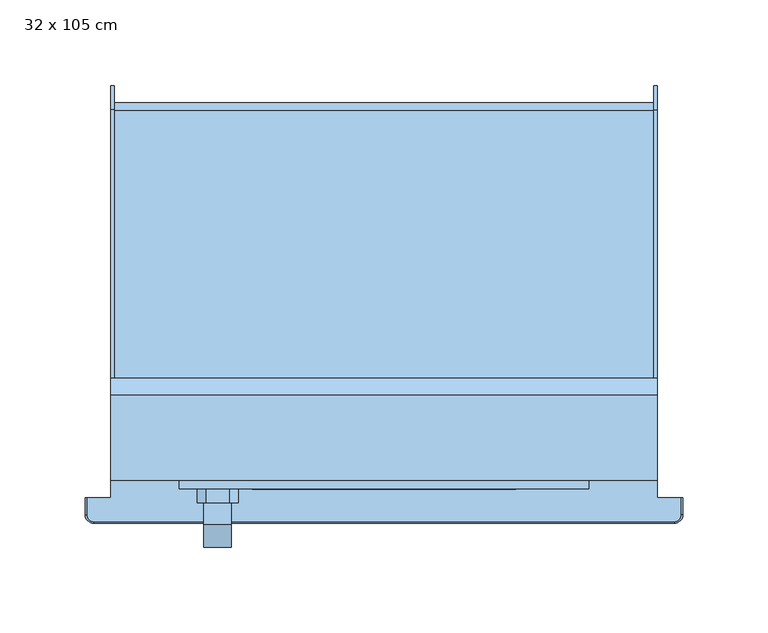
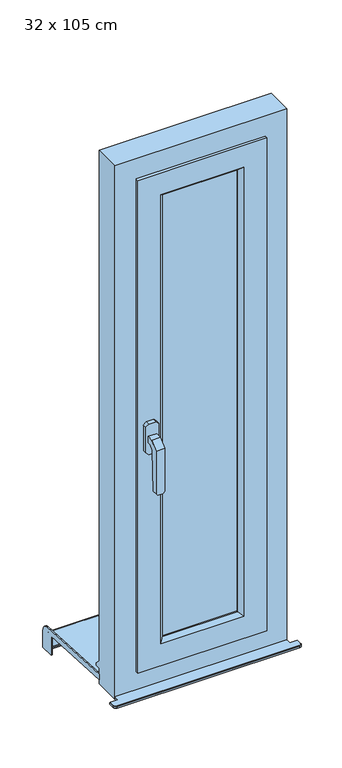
"""IFC4 building model written with IfcOpenShell, lengths in millimetres: window geometry, Fenêtre type 1 : 32 x 105 cm."""

import ifcopenshell
import ifcopenshell.guid

model = None  # the IFC model being written
_history = None  # IfcOwnerHistory: only IFC2X3 demands one
_inside = {}  # id of a spatial element -> (the spatial element, [elements in it])
_under = {}  # id of a project, library or spatial element -> (it, [spatial elements below it])
_declared = {}  # id of a project -> (the project, [libraries it declares])
_typed = {}  # id of a type object -> (the type object, [elements of that type])
_made_of = {}  # id of a material, layer set ... -> (it, [elements and type objects made of it])


def new_model(schema):
    """Start an empty IFC model of exactly this schema.

    Asked for "IFC4X3", IfcOpenShell would pick the latest addendum, in which some entities
    have other attributes; the version numbers below select the first issue.
    IFC2X3 requires an IfcOwnerHistory on every rooted entity: one is made here for all.
    """
    global model, _history
    if schema == "IFC4X3":
        model = ifcopenshell.file(schema_version=(4, 3, 0, 0))
    else:
        model = ifcopenshell.file(schema=schema)
    _inside.clear()
    _under.clear()
    _declared.clear()
    _typed.clear()
    _made_of.clear()
    _history = None
    if model.schema == "IFC2X3":
        org = make("IfcOrganization", Name="unknown")
        user = make(
            "IfcPersonAndOrganization",
            ThePerson=make("IfcPerson", FamilyName="unknown"),
            TheOrganization=org,
        )
        app = make(
            "IfcApplication",
            ApplicationDeveloper=org,
            Version="unknown",
            ApplicationFullName="unknown",
            ApplicationIdentifier="unknown",
        )
        _history = make(
            "IfcOwnerHistory",
            OwningUser=user,
            OwningApplication=app,
            ChangeAction="ADDED",
            CreationDate=0,
        )
    return model


def make(cls, **values):
    """One entity of the class cls with the attributes given. An attribute that is None is left unset."""
    return model.create_entity(
        cls, **{name: value for name, value in values.items() if value is not None}
    )


def rooted(cls, **values):
    """An entity with a GlobalId (a new one), such as an element, a storey or a relation."""
    return make(cls, GlobalId=ifcopenshell.guid.new(), OwnerHistory=_history, **values)


def si_unit(unit_type, name, prefix=None):
    """IfcSIUnit, for example si_unit("LENGTHUNIT", "METRE", prefix="MILLI")."""
    return make("IfcSIUnit", UnitType=unit_type, Prefix=prefix, Name=name)


def assignment(units):
    """IfcUnitAssignment: the units of a project."""
    return None if units is None else make("IfcUnitAssignment", Units=units)


def point(xyz):
    """IfcCartesianPoint."""
    return None if xyz is None else make("IfcCartesianPoint", Coordinates=xyz)


def direction(xyz):
    """IfcDirection."""
    return None if xyz is None else make("IfcDirection", DirectionRatios=xyz)


def frame(location, z_axis=None, x_axis=None):
    """IfcAxis2Placement3D, a coordinate frame: its origin and axes. An axis left out is left unset."""
    return make(
        "IfcAxis2Placement3D",
        Location=point(location),
        Axis=direction(z_axis),
        RefDirection=direction(x_axis),
    )


def origin():
    """The frame at (0, 0, 0) with its axes left unset."""
    return frame((0.0, 0.0, 0.0))


def place(relative_to, where):
    """IfcLocalPlacement: puts the frame where relative to a parent placement (None: the world)."""
    return make(
        "IfcLocalPlacement", PlacementRelTo=relative_to, RelativePlacement=where
    )


def context(
    kind, dimensions, precision=None, world=None, true_north=None, identifier=None
):
    """IfcGeometricRepresentationContext, for example the 3D "Model" context."""
    return make(
        "IfcGeometricRepresentationContext",
        ContextIdentifier=identifier,
        ContextType=kind,
        CoordinateSpaceDimension=dimensions,
        Precision=precision,
        WorldCoordinateSystem=world,
        TrueNorth=true_north,
    )


def project(units=None, contexts=None):
    """IfcProject with its units and contexts."""
    return rooted(
        "IfcProject",
        Name="project",
        RepresentationContexts=contexts,
        UnitsInContext=assignment(units),
    )


def spatial(cls, under=None, at=None, **own):
    """A site, building, storey or space (cls), placed at a placement, below another one or the project."""
    s = rooted(cls, ObjectPlacement=at, **own)
    if under is not None:
        _under.setdefault(under.id(), (under, []))[1].append(s)
    return s


def polyline(points):
    """IfcPolyline through the points."""
    return make("IfcPolyline", Points=[point(p) for p in points])


def circle_curve(where, radius):
    """IfcCircle in the frame where."""
    return make("IfcCircle", Position=where, Radius=radius)


def outline(outer, holes=None, kind="AREA"):
    """IfcArbitraryClosedProfileDef: a profile drawn as a closed curve; with holes, ...WithVoids."""
    if holes is None:
        return make("IfcArbitraryClosedProfileDef", ProfileType=kind, OuterCurve=outer)
    return make(
        "IfcArbitraryProfileDefWithVoids",
        ProfileType=kind,
        OuterCurve=outer,
        InnerCurves=holes,
    )


def extrude(swept, where, along, depth):
    """IfcExtrudedAreaSolid: the profile swept, set in the frame where, extruded along a direction by depth."""
    return make(
        "IfcExtrudedAreaSolid",
        SweptArea=swept,
        Position=where,
        ExtrudedDirection=direction(along),
        Depth=depth,
    )


def faces_of(points, faces, orient=None, outer=None):
    """IfcFace entities. A face is a list of loops; a loop is a list of indices into points, from 0.

    orient and outer hold one flag for each loop. By default every Orientation is true, the
    first loop of a face is its IfcFaceOuterBound and the others are IfcFaceBound.
    """
    made = []
    for i, loops in enumerate(faces):
        bounds = []
        for j, loop in enumerate(loops):
            is_outer = j == 0 if outer is None else outer[i][j]
            bounds.append(
                make(
                    "IfcFaceOuterBound" if is_outer else "IfcFaceBound",
                    Bound=make("IfcPolyLoop", Polygon=[points[k] for k in loop]),
                    Orientation=True if orient is None else orient[i][j],
                )
            )
        made.append(make("IfcFace", Bounds=bounds))
    return made


def faceted_brep(points, faces, orient=None, outer=None, voids=None):
    """IfcFacetedBrep: a solid bounded by flat faces; with voids (closed shells), ...WithVoids."""
    shared = [point(p) for p in points]
    hull = make("IfcClosedShell", CfsFaces=faces_of(shared, faces, orient, outer))
    if voids is None:
        return make("IfcFacetedBrep", Outer=hull)
    return make(
        "IfcFacetedBrepWithVoids",
        Outer=hull,
        Voids=[
            make(cls, CfsFaces=faces_of(shared, fs, o, b)) for cls, fs, o, b in voids
        ],
    )


def shape(context_of_items, identifier, shape_type, items):
    """IfcShapeRepresentation: the items that make up one representation, for example the "Body"."""
    return make(
        "IfcShapeRepresentation",
        ContextOfItems=context_of_items,
        RepresentationIdentifier=identifier,
        RepresentationType=shape_type,
        Items=items,
    )


def source(mapping_origin, context_of_items, identifier, shape_type, items):
    """IfcRepresentationMap: a shape defined once, which mapped items show again and again."""
    return make(
        "IfcRepresentationMap",
        MappingOrigin=mapping_origin,
        MappedRepresentation=shape(context_of_items, identifier, shape_type, items),
    )


def transform(
    local_origin,
    x_axis=None,
    y_axis=None,
    z_axis=None,
    scale=None,
    scale2=None,
    scale3=None,
    uniform=True,
):
    """IfcCartesianTransformationOperator3D, or its non-uniform kind. x_axis, y_axis, z_axis: its Axis1, 2, 3."""
    if uniform:
        return make(
            "IfcCartesianTransformationOperator3D",
            Axis1=direction(x_axis),
            Axis2=direction(y_axis),
            LocalOrigin=point(local_origin),
            Scale=scale,
            Axis3=direction(z_axis),
        )
    return make(
        "IfcCartesianTransformationOperator3DnonUniform",
        Axis1=direction(x_axis),
        Axis2=direction(y_axis),
        LocalOrigin=point(local_origin),
        Scale=scale,
        Axis3=direction(z_axis),
        Scale2=scale2,
        Scale3=scale3,
    )


def mapped(mapping_source, mapping_target):
    """IfcMappedItem: shows the shape of a source again, moved by a transform."""
    return make(
        "IfcMappedItem", MappingSource=mapping_source, MappingTarget=mapping_target
    )


def made_of(thing, what):
    """Note that an element or type object is made of a material, layer set ...; save() writes the relation."""
    if what is not None:
        _made_of.setdefault(what.id(), (what, []))[1].append(thing)
    return thing


def element(
    cls,
    number,
    at=None,
    inside=None,
    cuts=None,
    type_object=None,
    material=None,
    context=None,
    identifier="Body",
    shape_type=None,
    held_by="IfcProductDefinitionShape",
    body=None,
    shapes=None,
    **own,
):
    """One element of the class cls, such as IfcWall. Its Tag is "e" and its number.

    at: its placement. inside: the storey or other place that contains it. cuts: it is an
    opening in that element (IfcRelVoidsElement). A single representation is given by context,
    identifier, shape_type and body (its items); several are given by shapes. held_by: the class
    of the entity that holds the representations. save() writes the other relations.
    """
    e = rooted(cls, Tag="e%d" % number, ObjectPlacement=at, **own)
    if body is not None:
        shapes = [shape(context, identifier, shape_type, body)]
    if shapes is not None:
        e.Representation = make(held_by, Representations=shapes)
    if inside is not None:
        _inside.setdefault(inside.id(), (inside, []))[1].append(e)
    if cuts is not None:
        rooted(
            "IfcRelVoidsElement", RelatingBuildingElement=cuts, RelatedOpeningElement=e
        )
    if type_object is not None:
        _typed.setdefault(type_object.id(), (type_object, []))[1].append(e)
    return made_of(e, material)


def aggregate(whole, parts):
    """IfcRelAggregates: a whole, such as a stair, and the parts it consists of."""
    return rooted("IfcRelAggregates", RelatingObject=whole, RelatedObjects=parts)


def save(model, path):
    """Write the relations noted so far, then the file.

    IfcRelAggregates (storeys below a building ...), IfcRelContainedInSpatialStructure (elements
    in a storey), IfcRelDefinesByType, IfcRelAssociatesMaterial and IfcRelDeclares: one each for
    every whole, place, type object, material and project.
    """
    for whole, parts in _under.values():
        aggregate(whole, parts)
    for where, things in _inside.values():
        rooted(
            "IfcRelContainedInSpatialStructure",
            RelatedElements=things,
            RelatingStructure=where,
        )
    for kind, things in _typed.values():
        rooted("IfcRelDefinesByType", RelatedObjects=things, RelatingType=kind)
    for what, things in _made_of.values():
        rooted("IfcRelAssociatesMaterial", RelatedObjects=things, RelatingMaterial=what)
    for by, libraries in _declared.values():
        rooted("IfcRelDeclares", RelatingContext=by, RelatedDefinitions=libraries)
    model.write(path)


def plane_surface(at):
    """IfcPlane: the flat surface through the origin of the frame at, square to its z axis."""
    return make("IfcPlane", Position=at)


def cylinder_surface(at, radius):
    """IfcCylindricalSurface: all points at the distance radius from the z axis of the frame at."""
    return make("IfcCylindricalSurface", Position=at, Radius=radius)


def revolved_surface(curve, axis_point, axis_direction):
    """IfcSurfaceOfRevolution: the curve turned about the line through axis_point along axis_direction."""
    return make(
        "IfcSurfaceOfRevolution",
        SweptCurve=make("IfcArbitraryOpenProfileDef", ProfileType="CURVE", Curve=curve),
        AxisPosition=make("IfcAxis1Placement", Location=point(axis_point), Axis=direction(axis_direction)),
    )


def advanced_brep(points, edges, surfaces, faces):
    """IfcAdvancedBrep: a solid bounded by faces that lie on surfaces and meet in shared edges.

    An edge is (start, end): straight between two places in points (the first is 0);
    or (start, end, curve); or (start, end, curve, False) where it runs against its curve.
    A face is (place in surfaces, loops), or (place, loops, False) where it looks against
    its surface's normal. A loop lists edges by number (the first is 1), with a minus sign
    where the edge is run from its end to its start. The first loop is the outer one.
    """
    corners = [point(p) for p in points]
    vertices = [make("IfcVertexPoint", VertexGeometry=c) for c in corners]
    made = []
    for start, end, *more in edges:
        made.append(
            make(
                "IfcEdgeCurve",
                EdgeStart=vertices[start],
                EdgeEnd=vertices[end],
                EdgeGeometry=more[0] if more else make("IfcPolyline", Points=[corners[start], corners[end]]),
                SameSense=more[1] if len(more) > 1 else True,
            )
        )
    hull = []
    for where, loops, *sense in faces:
        bounds = []
        for j, loop in enumerate(loops):
            ring = [make("IfcOrientedEdge", EdgeElement=made[abs(k) - 1], Orientation=k > 0) for k in loop]
            bounds.append(
                make(
                    "IfcFaceOuterBound" if j == 0 else "IfcFaceBound",
                    Bound=make("IfcEdgeLoop", EdgeList=ring),
                    Orientation=True,
                )
            )
        hull.append(make("IfcAdvancedFace", Bounds=bounds, FaceSurface=surfaces[where], SameSense=sense[0] if sense else True))
    return make("IfcAdvancedBrep", Outer=make("IfcClosedShell", CfsFaces=hull))


def window_32_x_105_cm_cd53f0fd(model_context):
    return source(origin(), model_context, "Body", "SolidModel", [
        faceted_brep([(-105.5, -103.0, 1306.0), (-89.5, -103.0, 1306.0), (-89.5, -103.0, 1294.0), (-105.5, -103.0, 1294.0), (-105.5, -115.4852814, 1306.0), (-89.5, -115.4852814, 1306.0), (-89.5, -129.0, 1292.4852814), (-89.5, -129.0, 1208.5355339), (-89.5, -119.7580139, 1208.5355339), (-89.5, -117.0099909, 1287.2286157), (-89.5, -117.0, 1287.5147186), (-89.5, -110.5147186, 1294.0), (-105.5, -110.5147186, 1294.0), (-105.5, -117.0, 1287.5147186), (-105.5, -117.0, 1287.2282668), (-105.5, -119.7580139, 1208.5355339), (-105.5, -129.0, 1208.5355339), (-105.5, -129.0, 1292.4852814), (-93.0355339, -129.0, 1205.0), (-101.9644661, -129.0, 1205.0), (-101.9644661, -119.8814775, 1205.0), (-93.0355339, -119.8814775, 1205.0)], [[[0, 1, 2, 3]], [[1, 0, 4, 5]], [[2, 1, 5, 6, 7, 8, 9, 10, 11]], [[3, 2, 11, 12]], [[0, 3, 12, 13, 14, 15, 16, 17, 4]], [[5, 4, 17, 6]], [[11, 10, 13, 12]], [[18, 19, 20, 21]], [[6, 17, 16, 19, 18, 7]], [[13, 10, 9, 14]], [[14, 9, 8, 21, 20, 15]], [[8, 7, 18, 21]], [[16, 15, 20, 19]]]),
        extrude(outline(polyline([(1330.0, -104.5), (1325.0, -109.5), (1275.0, -109.5), (1270.0, -104.5), (1270.0, -90.5), (1275.0, -85.5), (1325.0, -85.5), (1330.0, -90.5), (1330.0, -104.5)])), frame((0.0, -103.0, 0.0), z_axis=(0.0, 1.0, 0.0), x_axis=(0.0, 0.0, 1.0)), (0.0, 0.0, 1.0), 8.0),
        advanced_brep(
        [(-160.0, 115.0, 762.0), (-160.0, 115.0, 799.2138833), (-160.0, -40.0, 807.3370891), (-160.0, -40.0, 818.8528711), (-160.0, 127.2850393, 810.0858337), (-160.0, 141.5, 795.1063906), (-160.0, 141.5, 762.0), (160.0, 115.0, 799.2138833), (160.0, 115.0, 762.0), (160.0, 141.5, 762.0), (160.0, 141.5, 795.1063906), (160.0, 127.2850393, 810.0858337), (160.0, -40.0, 818.8528711), (160.0, -40.0, 807.3370891), (-158.0, -40.0, 818.8528711), (158.0, -40.0, 818.8528711), (158.0, -40.0, 808.8391476), (-158.0, -40.0, 808.8391476), (-158.0, 126.7616798, 800.0995383), (158.0, 126.7616798, 800.0995383), (158.0, 131.5, 795.1063906), (158.0, 131.5, 762.0), (-158.0, 131.5, 762.0), (-158.0, 131.5, 795.1063906), (-158.0, 130.0, 762.0), (-158.0, 115.0, 762.0), (-158.0, 141.5, 762.0), (158.0, 141.5, 762.0), (158.0, 115.0, 762.0), (158.0, 130.0, 762.0), (-158.0, 120.0, 772.0), (158.0, 120.0, 772.0), (-158.0, 121.0606602, 773.0606602), (158.0, 121.0606602, 773.0606602), (-158.0, 130.0, 764.1213203), (158.0, 130.0, 764.1213203), (-158.0, 130.0, 795.0728058), (158.0, 130.0, 795.0728058), (-158.0, 115.0, 799.2138833), (-158.0, 126.649637, 798.6033517), (158.0, 126.649637, 798.6033517), (158.0, 115.0, 799.2138833), (158.0, 127.2850393, 810.0858337), (158.0, 141.5, 795.1063906), (-158.0, 141.5, 795.1063906), (-158.0, 127.2850393, 810.0858337)],
        [
            (0, 1),
            (1, 2),
            (2, 3),
            (3, 4),
            (4, 5, circle_curve(frame((-160.0, 126.5, 795.1063906), z_axis=(-1.0, 0.0, 0.0), x_axis=(0.0, 0.0523359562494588, 0.9986295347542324)), 15.0)),
            (5, 6),
            (6, 0),
            (7, 8),
            (8, 9),
            (9, 10),
            (10, 11, circle_curve(frame((160.0, 126.5, 795.1063906), z_axis=(1.0, 0.0, 0.0), x_axis=(0.0, 1.0, 0.0)), 15.0)),
            (11, 12),
            (12, 13),
            (13, 7),
            (14, 3),
            (2, 13),
            (12, 15),
            (15, 16),
            (16, 17),
            (17, 14),
            (18, 17),
            (16, 19),
            (19, 18),
            (20, 21),
            (21, 22),
            (22, 23),
            (23, 20),
            (24, 25),
            (25, 0),
            (6, 26),
            (26, 22),
            (21, 27),
            (27, 9),
            (8, 28),
            (28, 29),
            (29, 24),
            (30, 24),
            (29, 31),
            (31, 30),
            (32, 30),
            (31, 33),
            (33, 32),
            (34, 32),
            (33, 35),
            (35, 34),
            (36, 34),
            (35, 37),
            (37, 36),
            (38, 39),
            (39, 40),
            (40, 41),
            (41, 7),
            (1, 38),
            (38, 25),
            (36, 39, circle_curve(frame((-158.0, 126.4646089, 795.0728058), z_axis=(1.0, 0.0, 0.0), x_axis=(0.0, -1.0, 0.0)), 3.5353911)),
            (28, 41),
            (40, 37, circle_curve(frame((158.0, 126.4646089, 795.0728058), z_axis=(-1.0, 0.0, 0.0), x_axis=(0.0, -1.0, 0.0)), 3.5353911)),
            (19, 20, circle_curve(frame((158.0, 126.5, 795.1063906), z_axis=(-1.0, 0.0, 0.0), x_axis=(0.0, -1.0, 0.0)), 5.0)),
            (23, 18, circle_curve(frame((-158.0, 126.5, 795.1063906), z_axis=(1.0, 0.0, 0.0), x_axis=(0.0, -1.0, 0.0)), 5.0)),
            (15, 42),
            (42, 43, circle_curve(frame((158.0, 126.5, 795.1063906), z_axis=(-1.0, 0.0, 0.0), x_axis=(0.0, 1.0, 0.0)), 15.0)),
            (43, 27),
            (43, 10),
            (42, 11),
            (26, 44),
            (44, 45, circle_curve(frame((-158.0, 126.5, 795.1063906), z_axis=(1.0, 0.0, 0.0), x_axis=(0.0, 0.0523359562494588, 0.9986295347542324)), 15.0)),
            (45, 14),
            (45, 4),
            (44, 5),
        ],
        [
            plane_surface(frame((-160.0, -40.0, 807.3370891), z_axis=(-1.0, 0.0, 0.0), x_axis=(0.0, 0.0, 1.0))),
            plane_surface(frame((160.0, -40.0, 807.3370891), z_axis=(1.0, 0.0, 0.0), x_axis=(0.0, 0.0, -1.0))),
            plane_surface(frame((-160.0, -40.0, 807.3370891), z_axis=(0.0, -1.0, 0.0), x_axis=(1.0, 0.0, 0.0))),
            plane_surface(frame((-160.0, -40.0, 808.8391476), z_axis=(0.0, 0.05233595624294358, 0.9986295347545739), x_axis=(1.0, 0.0, 0.0))),
            plane_surface(frame((-160.0, 131.5, 795.1063906), z_axis=(0.0, 1.0, 0.0), x_axis=(1.0, 0.0, 0.0))),
            plane_surface(frame((-160.0, 131.5, 762.0), z_axis=(0.0, 0.0, -1.0), x_axis=(1.0, 0.0, 0.0))),
            plane_surface(frame((-160.0, 130.0, 762.0), z_axis=(0.0, -0.7071067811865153, -0.7071067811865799), x_axis=(1.0, 0.0, 0.0))),
            plane_surface(frame((-160.0, 120.0, 772.0), z_axis=(0.0, -0.7071067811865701, 0.707106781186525), x_axis=(1.0, 0.0, 0.0))),
            plane_surface(frame((-160.0, 121.0606602, 773.0606602), z_axis=(0.0, 0.7071067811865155, 0.7071067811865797), x_axis=(1.0, 0.0, 0.0))),
            plane_surface(frame((-160.0, 130.0, 764.1213203), z_axis=(0.0, -1.0, 0.0), x_axis=(1.0, 0.0, 0.0))),
            plane_surface(frame((-160.0, 126.649637, 798.6033517), z_axis=(0.0, -0.052335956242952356, -0.9986295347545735), x_axis=(1.0, 0.0, 0.0))),
            plane_surface(frame((-158.0, 130.0, 798.4277666), z_axis=(1.0, 0.0, 0.0), x_axis=(0.0, -0.9986295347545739, 0.05233595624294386))),
            plane_surface(frame((-160.0, 115.0, 762.0), z_axis=(0.0, -1.0, 0.0), x_axis=(1.0, 0.0, 0.0))),
            plane_surface(frame((158.0, 130.0, 798.4277666), z_axis=(-1.0, 0.0, 0.0), x_axis=(0.0, 0.0, -1.0))),
            plane_surface(frame((158.0, 115.0, 762.0), z_axis=(0.0, -1.0, 0.0), x_axis=(1.0, 0.0, 0.0))),
            cylinder_surface(frame((160.0, 126.5, 795.1063906), z_axis=(-1.0, 0.0, 0.0), x_axis=(0.0, -1.0, 0.0)), 5.0),
            revolved_surface(polyline([(158.0, 122.9292178, 795.0728058), (-158.0, 122.9292178, 795.0728058)]), (160.0, 126.4646089, 795.0728058), (1.0, 0.0, 0.0)),
            plane_surface(frame((158.0, 131.5, 762.0), z_axis=(-1.0, 0.0, 0.0), x_axis=(0.0, 0.0, 1.0))),
            plane_surface(frame((158.0, 141.5, 762.0), z_axis=(0.0, 1.0, 0.0), x_axis=(0.0, 0.0, 1.0))),
            cylinder_surface(frame((160.0, 126.5, 795.1063906), z_axis=(1.0, 0.0, 0.0), x_axis=(0.0, 1.0, 0.0)), 15.0),
            plane_surface(frame((158.0, 127.2850393, 810.0858337), z_axis=(0.0, 0.05233595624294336, 0.9986295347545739), x_axis=(0.0, -0.9986295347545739, 0.05233595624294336))),
            plane_surface(frame((-158.0, -40.0, 818.8528711), z_axis=(1.0, 0.0, 0.0), x_axis=(0.0, -0.9986295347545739, 0.05233595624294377))),
            plane_surface(frame((-160.0, -40.0, 818.8528711), z_axis=(0.0, 0.05233595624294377, 0.9986295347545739), x_axis=(1.0, 0.0, 0.0))),
            cylinder_surface(frame((-160.0, 126.5, 795.1063906), z_axis=(-1.0, 0.0, 0.0), x_axis=(0.0, 0.0523359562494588, 0.9986295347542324)), 15.0),
            plane_surface(frame((-158.0, 141.5, 795.1063906), z_axis=(0.0, 1.0, 0.0), x_axis=(0.0, 0.0, -1.0))),
        ],
        [
            (0, [[1, 2, 3, 4, 5, 6, 7]]),
            (1, [[8, 9, 10, 11, 12, 13, 14]]),
            (2, [[15, -3, 16, -13, 17, 18, 19, 20]]),
            (3, [[21, -19, 22, 23]]),
            (4, [[24, 25, 26, 27]]),
            (5, [[28, 29, -7, 30, 31, -25, 32, 33, -9, 34, 35, 36]]),
            (6, [[37, -36, 38, 39]]),
            (7, [[40, -39, 41, 42]]),
            (8, [[43, -42, 44, 45]]),
            (9, [[46, -45, 47, 48]]),
            (10, [[49, 50, 51, 52, -14, -16, -2, 53]]),
            (11, [[54, -28, -37, -40, -43, -46, 55, -49]]),
            (12, [[-54, -53, -1, -29]]),
            (13, [[-35, 56, -51, 57, -47, -44, -41, -38]]),
            (14, [[-56, -34, -8, -52]]),
            (15, [[58, -27, 59, -23]]),
            (16, [[-55, -48, -57, -50]]),
            (17, [[-32, -24, -58, -22, -18, 60, 61, 62]]),
            (18, [[-33, -62, 63, -10]]),
            (19, [[-11, -63, -61, 64]]),
            (20, [[-64, -60, -17, -12]]),
            (21, [[-20, -21, -59, -26, -31, 65, 66, 67]]),
            (22, [[-4, -15, -67, 68]]),
            (23, [[-5, -68, -66, 69]]),
            (24, [[-6, -69, -65, -30]]),
        ],
    ),
        extrude(outline(polyline([(-70.0, -85.0), (-70.0, -65.0), (70.0, -65.0), (70.0, -85.0), (-70.0, -85.0)])), frame((0.0, 0.0, 890.0), z_axis=(0.0, 0.0, 1.0), x_axis=(1.0, 0.0, 0.0)), (0.0, 0.0, 1.0), 870.0),
        faceted_brep([(-120.0, -95.0, 840.0), (-120.0, -55.0, 840.0), (120.0, -55.0, 840.0), (120.0, -95.0, 840.0), (120.0, -55.0, 1810.0), (120.0, -95.0, 1810.0), (-120.0, -55.0, 1810.0), (77.0710678, -55.0, 1767.0710678), (-77.0710678, -55.0, 1767.0710678), (-77.0710678, -55.0, 882.9289322), (77.0710678, -55.0, 882.9289322), (-120.0, -95.0, 1810.0), (77.0710678, -95.0, 882.9289322), (-77.0710678, -95.0, 882.9289322), (-77.0710678, -95.0, 1767.0710678), (77.0710678, -95.0, 1767.0710678), (-70.0, -87.9289322, 890.0), (70.0, -87.9289322, 890.0), (70.0, -87.9289322, 1760.0), (70.0, -62.0710678, 890.0), (70.0, -62.0710678, 1760.0), (-70.0, -62.0710678, 890.0), (-70.0, -87.9289322, 1760.0), (-70.0, -62.0710678, 1760.0)], [[[0, 1, 2, 3]], [[3, 2, 4, 5]], [[2, 1, 6, 4], [7, 8, 9, 10]], [[5, 11, 0, 3], [12, 13, 14, 15]], [[16, 13, 12, 17]], [[17, 12, 15, 18]], [[19, 17, 18, 20]], [[9, 21, 19, 10]], [[10, 19, 20, 7]], [[11, 6, 1, 0]], [[22, 14, 13, 16]], [[23, 22, 16, 21]], [[8, 23, 21, 9]], [[21, 16, 17, 19]], [[5, 4, 6, 11]], [[18, 15, 14, 22]], [[7, 20, 23, 8]], [[20, 18, 22, 23]]]),
        faceted_brep([(160.0, -40.0, 800.0), (160.0, -40.0, 830.0), (160.0, -30.0, 830.0), (160.0, -30.0, 835.0), (160.0, -40.0, 845.0), (160.0, -40.0, 1850.0), (160.0, -90.0, 1850.0), (160.0, -90.0, 800.0), (-160.0, -40.0, 800.0), (-160.0, -40.0, 830.0), (-160.0, -30.0, 830.0), (-160.0, -30.0, 835.0), (-160.0, -40.0, 845.0), (-115.0, -40.0, 845.0), (-110.0, -45.0, 850.0), (110.0, -45.0, 850.0), (115.0, -40.0, 845.0), (-160.0, -40.0, 1850.0), (115.0, -40.0, 1805.0), (-115.0, -40.0, 1805.0), (-160.0, -90.0, 1850.0), (-160.0, -90.0, 800.0), (120.0, -90.0, 840.0), (-120.0, -90.0, 840.0), (-120.0, -90.0, 1810.0), (120.0, -90.0, 1810.0), (120.0, -55.0, 840.0), (-120.0, -55.0, 840.0), (-120.0, -55.0, 1810.0), (120.0, -55.0, 1810.0), (110.0, -55.0, 850.0), (-110.0, -55.0, 850.0), (-110.0, -55.0, 1800.0), (110.0, -55.0, 1800.0), (-110.0, -45.0, 1800.0), (110.0, -45.0, 1800.0)], [[[0, 1, 2, 3, 4, 5, 6, 7]], [[1, 0, 8, 9]], [[2, 1, 9, 10]], [[3, 2, 10, 11]], [[3, 11, 12, 13, 14, 15, 16, 4]], [[17, 5, 4, 16, 18, 19, 13, 12]], [[7, 6, 20, 21], [22, 23, 24, 25]], [[0, 7, 21, 8]], [[8, 21, 20, 17, 12, 11, 10, 9]], [[23, 22, 26, 27]], [[27, 28, 24, 23]], [[22, 25, 29, 26]], [[29, 28, 27, 26], [30, 31, 32, 33]], [[31, 30, 15, 14]], [[34, 32, 31, 14]], [[33, 35, 15, 30]], [[35, 18, 16, 15]], [[19, 34, 14, 13]], [[5, 17, 20, 6]], [[28, 29, 25, 24]], [[19, 18, 35, 34]], [[33, 32, 34, 35]]]),
        advanced_brep(
        [(160.0, -100.0, 805.0), (160.0, -90.0, 805.0), (-160.0, -90.0, 805.0), (-160.0, -100.0, 805.0), (-173.9971508, -100.0, 805.0), (-173.9971508, -110.0, 805.0), (-170.0, -113.9971508, 805.0), (170.0, -113.9971508, 805.0), (173.9971508, -110.0, 805.0), (173.9971508, -100.0, 805.0), (-160.0, -100.0, 800.0), (-160.0, -90.0, 800.0), (160.0, -90.0, 800.0), (160.0, -100.0, 800.0), (173.9971508, -100.0, 800.0), (173.9971508, -110.0, 800.0), (170.0, -113.9971508, 800.0), (-170.0, -113.9971508, 800.0), (-173.9971508, -110.0, 800.0), (-173.9971508, -100.0, 800.0), (-175.0, -110.0, 801.0028492), (-175.0, -110.0, 803.9971508), (-175.0, -100.0, 803.9971508), (-175.0, -100.0, 801.0028492), (175.0, -100.0, 803.9971508), (175.0, -100.0, 801.0028492), (175.0, -110.0, 803.9971508), (175.0, -110.0, 801.0028492), (170.0, -115.0, 801.0028492), (170.0, -115.0, 803.9971508), (-170.0, -115.0, 803.9971508), (-170.0, -115.0, 801.0028492)],
        [
            (0, 1),
            (1, 2),
            (2, 3),
            (3, 4),
            (4, 5),
            (5, 6, circle_curve(frame((-170.0, -110.0, 805.0), z_axis=(0.0, 0.0, 1.0), x_axis=(-1.0, 0.0, 0.0)), 3.9971508)),
            (6, 7),
            (7, 8, circle_curve(frame((170.0, -110.0, 805.0), z_axis=(0.0, 0.0, 1.0), x_axis=(0.0, -1.0, 0.0)), 3.9971508)),
            (8, 9),
            (9, 0),
            (10, 11),
            (11, 12),
            (12, 13),
            (13, 14),
            (14, 15),
            (15, 16, circle_curve(frame((170.0, -110.0, 800.0), z_axis=(0.0, 0.0, -1.0), x_axis=(0.0, -1.0, 0.0)), 3.9971508)),
            (16, 17),
            (17, 18, circle_curve(frame((-170.0, -110.0, 800.0), z_axis=(0.0, 0.0, -1.0), x_axis=(-1.0, 0.0, 0.0)), 3.9971508)),
            (18, 19),
            (19, 10),
            (20, 21),
            (21, 22),
            (22, 23),
            (23, 20),
            (3, 10),
            (19, 23),
            (22, 4),
            (2, 11),
            (1, 12),
            (0, 13),
            (9, 24),
            (24, 25),
            (25, 14),
            (24, 26),
            (26, 27),
            (27, 25),
            (28, 29),
            (29, 30),
            (30, 31),
            (31, 28),
            (28, 27, circle_curve(frame((170.0, -110.0, 801.0028492), z_axis=(0.0, 0.0, 1.0), x_axis=(0.0, -1.0, 0.0)), 5.0)),
            (26, 29, circle_curve(frame((170.0, -110.0, 803.9971508), z_axis=(0.0, 0.0, -1.0), x_axis=(0.0, -1.0, 0.0)), 5.0)),
            (20, 31, circle_curve(frame((-170.0, -110.0, 801.0028492), z_axis=(0.0, 0.0, 1.0), x_axis=(0.0, -1.0, 0.0)), 5.0)),
            (30, 21, circle_curve(frame((-170.0, -110.0, 803.9971508), z_axis=(0.0, 0.0, -1.0), x_axis=(0.0, -1.0, 0.0)), 5.0)),
            (21, 5),
            (18, 20),
            (30, 6),
            (17, 31),
            (29, 7),
            (16, 28),
            (26, 8),
            (15, 27),
        ],
        [
            plane_surface(frame((-175.0, -100.0, 805.0), z_axis=(0.0, 0.0, 1.0), x_axis=(0.0, -1.0, 0.0))),
            plane_surface(frame((-175.0, -100.0, 800.0), z_axis=(0.0, 0.0, -1.0), x_axis=(0.0, 1.0, 0.0))),
            plane_surface(frame((-175.0, -110.0, 800.0), z_axis=(-1.0, 0.0, 0.0), x_axis=(0.0, 0.0, 1.0))),
            plane_surface(frame((-175.0, -100.0, 800.0), z_axis=(0.0, 1.0, 0.0), x_axis=(0.0, 0.0, 1.0))),
            plane_surface(frame((-160.0, -100.0, 800.0), z_axis=(-1.0, 0.0, 0.0), x_axis=(0.0, 0.0, 1.0))),
            plane_surface(frame((-160.0, -90.0, 800.0), z_axis=(0.0, 1.0, 0.0), x_axis=(0.0, 0.0, 1.0))),
            plane_surface(frame((160.0, -90.0, 800.0), z_axis=(1.0, 0.0, 0.0), x_axis=(0.0, 0.0, 1.0))),
            plane_surface(frame((160.0, -100.0, 800.0), z_axis=(0.0, 1.0, 0.0), x_axis=(0.0, 0.0, 1.0))),
            plane_surface(frame((175.0, -100.0, 800.0), z_axis=(1.0, 0.0, 0.0), x_axis=(0.0, 0.0, 1.0))),
            plane_surface(frame((170.0, -115.0, 800.0), z_axis=(0.0, -1.0, 0.0), x_axis=(0.0, 0.0, 1.0))),
            cylinder_surface(frame((170.0, -110.0, 805.0), z_axis=(0.0, 0.0, -1.0), x_axis=(0.0, -1.0, 0.0)), 5.0),
            cylinder_surface(frame((-170.0, -110.0, 805.0), z_axis=(0.0, 0.0, -1.0), x_axis=(0.0, -1.0, 0.0)), 5.0),
            plane_surface(frame((-173.9971508, -100.0, 805.0), z_axis=(-0.7071067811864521, 0.0, 0.707106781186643), x_axis=(0.0, -1.0, 0.0))),
            plane_surface(frame((-175.0, -100.0, 801.0028492), z_axis=(-0.7071067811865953, 0.0, -0.7071067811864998), x_axis=(0.0, -1.0, 0.0))),
            revolved_surface(polyline([(-175.0, -110.0, 803.9971508), (-173.9971508, -110.0, 805.0)]), (-170.0, -110.0, 805.0), (0.0, 0.0, 1.0)),
            revolved_surface(polyline([(-173.9971508, -110.0, 800.0), (-175.0, -110.0, 801.0028492)]), (-170.0, -110.0, 805.0), (0.0, 0.0, 1.0)),
            plane_surface(frame((-170.0, -113.9971508, 805.0), z_axis=(0.0, -0.7071067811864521, 0.707106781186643), x_axis=(1.0, 0.0, 0.0))),
            plane_surface(frame((-170.0, -115.0, 801.0028492), z_axis=(0.0, -0.7071067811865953, -0.7071067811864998), x_axis=(1.0, 0.0, 0.0))),
            revolved_surface(polyline([(170.0, -115.0, 803.9971508), (170.0, -113.9971508, 805.0)]), (170.0, -110.0, 805.0), (0.0, 0.0, 1.0)),
            revolved_surface(polyline([(170.0, -113.9971508, 800.0), (170.0, -115.0, 801.0028492)]), (170.0, -110.0, 805.0), (0.0, 0.0, 1.0)),
            plane_surface(frame((173.9971508, -110.0, 805.0), z_axis=(0.7071067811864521, 0.0, 0.707106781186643), x_axis=(0.0, 1.0, 0.0))),
            plane_surface(frame((175.0, -110.0, 801.0028492), z_axis=(0.7071067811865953, 0.0, -0.7071067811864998), x_axis=(0.0, 1.0, 0.0))),
        ],
        [
            (0, [[1, 2, 3, 4, 5, 6, 7, 8, 9, 10]]),
            (1, [[11, 12, 13, 14, 15, 16, 17, 18, 19, 20]]),
            (2, [[21, 22, 23, 24]]),
            (3, [[25, -20, 26, -23, 27, -4]]),
            (4, [[-3, 28, -11, -25]]),
            (5, [[-2, 29, -12, -28]]),
            (6, [[-1, 30, -13, -29]]),
            (7, [[-30, -10, 31, 32, 33, -14]]),
            (8, [[-32, 34, 35, 36]]),
            (9, [[37, 38, 39, 40]]),
            (10, [[-37, 41, -35, 42]]),
            (11, [[-21, 43, -39, 44]]),
            (12, [[45, -5, -27, -22]]),
            (13, [[46, -24, -26, -19]]),
            (14, [[-45, -44, 47, -6]]),
            (15, [[-46, -18, 48, -43]]),
            (16, [[-47, -38, 49, -7]]),
            (17, [[-48, -17, 50, -40]]),
            (18, [[-49, -42, 51, -8]]),
            (19, [[-50, -16, 52, -41]]),
            (20, [[-51, -34, -31, -9]]),
            (21, [[-52, -15, -33, -36]]),
        ],
    ),
    ])


if __name__ == "__main__":
    model = new_model("IFC4")
    model_context = context("Model", 3, world=origin())
    ifc_project = project(units=[si_unit("LENGTHUNIT", "METRE", prefix="MILLI")], contexts=[model_context])
    site = spatial("IfcSite", under=ifc_project)
    building = spatial("IfcBuilding", under=site)
    placement = place(None, origin())
    window_32_x_105_cm_shape = window_32_x_105_cm_cd53f0fd(model_context)
    element("IfcWindow", 1, ObjectType="Fenêtre type 1 : 32 x 105 cm", at=placement, inside=building, context=model_context, shape_type="MappedRepresentation", body=[
        mapped(window_32_x_105_cm_shape, transform((0.0, 0.0, 0.0), x_axis=(1.0, 0.0, 0.0), y_axis=(0.0, 1.0, 0.0), z_axis=(0.0, 0.0, 1.0))),
    ])
    save(model, "model.ifc")
